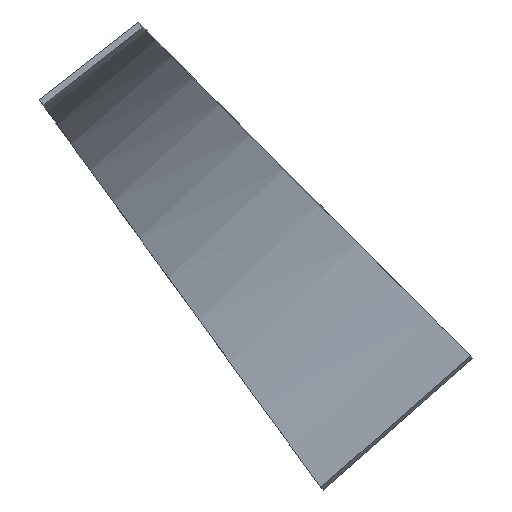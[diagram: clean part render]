
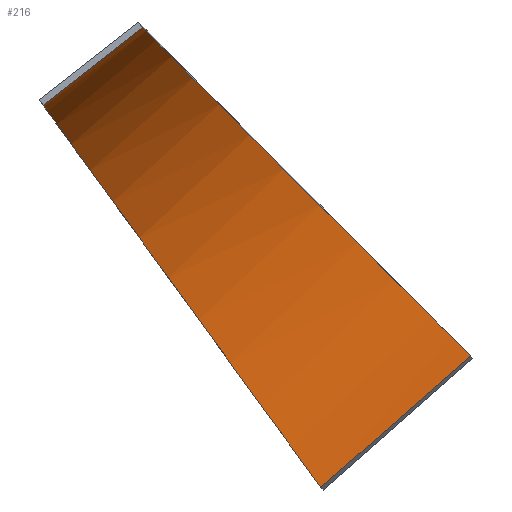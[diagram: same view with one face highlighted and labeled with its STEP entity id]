
A CAD part, top view. The second image highlights one B-rep face of the part: STEP entity #216.
In plain terms, the highlighted free-form (B-spline) face has degree [3, 1] with [10, 2] control points.
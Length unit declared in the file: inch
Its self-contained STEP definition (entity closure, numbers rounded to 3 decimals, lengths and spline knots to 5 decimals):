
#8 = B_SPLINE_CURVE_WITH_KNOTS ( 'NONE', 3,
 ( #212, #186, #153, #255 ),
 .UNSPECIFIED., .F., .F.,
 ( 4, 4 ),
 ( 0., 1. ),
 .UNSPECIFIED. ) ;
#11 = CARTESIAN_POINT ( 'NONE',  ( 50.5864, -69.62621, -0.125 ) ) ;
#12 = CARTESIAN_POINT ( 'NONE',  ( 92.98611, -92.98611, -31.83572 ) ) ;
#14 = ORIENTED_EDGE ( 'NONE', *, *, #200, .F. ) ;
#18 = CARTESIAN_POINT ( 'NONE',  ( 66.52466, -66.52466, -21.77089 ) ) ;
#29 = CARTESIAN_POINT ( 'NONE',  ( 51.52711, -70.92098, -11.88768 ) ) ;
#35 = B_SPLINE_SURFACE_WITH_KNOTS ( 'NONE', 3, 1, ( 
 ( #44, #49 ),
 ( #175, #299 ),
 ( #145, #99 ),
 ( #18, #72 ),
 ( #169, #314 ),
 ( #229, #232 ),
 ( #268, #226 ),
 ( #102, #320 ),
 ( #12, #105 ),
 ( #78, #119 ) ),
 .UNSPECIFIED., .F., .F., .F.,
 ( 4, 2, 2, 2, 4 ),
 ( 2, 2 ),
 ( 0., 0.25, 0.5, 0.75, 1. ),
 ( 0., 1. ),
 .UNSPECIFIED. ) ;
#36 = B_SPLINE_CURVE_WITH_KNOTS ( 'NONE', 3,
 ( #311, #74, #178, #140, #271, #97, #172, #274, #205, #317 ),
 .UNSPECIFIED., .F., .F.,
 ( 4, 2, 2, 2, 4 ),
 ( 0., 0.25, 0.5, 0.75, 1. ),
 .UNSPECIFIED. ) ;
#44 = CARTESIAN_POINT ( 'NONE',  ( 61.27539, -61.27539, -0.125 ) ) ;
#49 = CARTESIAN_POINT ( 'NONE',  ( 50.5864, -69.62621, -0.125 ) ) ;
#56 = CARTESIAN_POINT ( 'NONE',  ( 67.00846, -92.22923, -33.92651 ) ) ;
#71 = B_SPLINE_CURVE_WITH_KNOTS ( 'NONE', 3,
 ( #284, #276, #238, #56, #159, #157, #83, #29, #188, #112 ),
 .UNSPECIFIED., .F., .F.,
 ( 4, 2, 2, 2, 4 ),
 ( 0., 0.25, 0.5, 0.75, 1. ),
 .UNSPECIFIED. ) ;
#72 = CARTESIAN_POINT ( 'NONE',  ( 55.02727, -75.73854, -22.15802 ) ) ;
#74 = CARTESIAN_POINT ( 'NONE',  ( 61.29085, -61.29085, -5.95664 ) ) ;
#78 = CARTESIAN_POINT ( 'NONE',  ( 96.56498, -96.56498, -28.93883 ) ) ;
#81 = VERTEX_POINT ( 'NONE', #111 ) ;
#83 = CARTESIAN_POINT ( 'NONE',  ( 55.02727, -75.73854, -22.15802 ) ) ;
#93 = EDGE_LOOP ( 'NONE', ( #14, #204, #217, #231 ) ) ;
#97 = CARTESIAN_POINT ( 'NONE',  ( 76.63518, -76.63518, -31.79238 ) ) ;
#99 = CARTESIAN_POINT ( 'NONE',  ( 51.52711, -70.92098, -11.88768 ) ) ;
#102 = CARTESIAN_POINT ( 'NONE',  ( 88.93224, -88.93224, -33.35462 ) ) ;
#105 = CARTESIAN_POINT ( 'NONE',  ( 77.41651, -106.55469, -32.40204 ) ) ;
#106 = CARTESIAN_POINT ( 'NONE',  ( 91.19149, -101.28411, -29.11023 ) ) ;
#111 = CARTESIAN_POINT ( 'NONE',  ( 80.44451, -110.72237, -29.45304 ) ) ;
#112 = CARTESIAN_POINT ( 'NONE',  ( 50.5864, -69.62621, -0.125 ) ) ;
#119 = CARTESIAN_POINT ( 'NONE',  ( 80.44451, -110.72237, -29.45304 ) ) ;
#120 = CARTESIAN_POINT ( 'NONE',  ( 96.56498, -96.56498, -28.93883 ) ) ;
#122 = VERTEX_POINT ( 'NONE', #150 ) ;
#140 = CARTESIAN_POINT ( 'NONE',  ( 66.52466, -66.52466, -21.77089 ) ) ;
#145 = CARTESIAN_POINT ( 'NONE',  ( 62.38765, -62.38765, -11.68106 ) ) ;
#150 = CARTESIAN_POINT ( 'NONE',  ( 61.27539, -61.27539, -0.125 ) ) ;
#151 = EDGE_CURVE ( 'NONE', #302, #81, #187, .T. ) ;
#153 = CARTESIAN_POINT ( 'NONE',  ( 57.71239, -64.059, -0.125 ) ) ;
#157 = CARTESIAN_POINT ( 'NONE',  ( 57.53865, -79.19516, -26.42278 ) ) ;
#159 = CARTESIAN_POINT ( 'NONE',  ( 63.58185, -87.5129, -32.35869 ) ) ;
#169 = CARTESIAN_POINT ( 'NONE',  ( 69.49285, -69.49285, -25.96069 ) ) ;
#172 = CARTESIAN_POINT ( 'NONE',  ( 80.685, -80.685, -33.33276 ) ) ;
#175 = CARTESIAN_POINT ( 'NONE',  ( 61.29085, -61.29085, -5.95664 ) ) ;
#178 = CARTESIAN_POINT ( 'NONE',  ( 62.38765, -62.38765, -11.68106 ) ) ;
#186 = CARTESIAN_POINT ( 'NONE',  ( 54.1494, -66.8426, -0.125 ) ) ;
#187 = B_SPLINE_CURVE_WITH_KNOTS ( 'NONE', 3,
 ( #120, #106, #202, #194 ),
 .UNSPECIFIED., .F., .F.,
 ( 4, 4 ),
 ( 0., 1. ),
 .UNSPECIFIED. ) ;
#188 = CARTESIAN_POINT ( 'NONE',  ( 50.59925, -69.6439, -6.06087 ) ) ;
#194 = CARTESIAN_POINT ( 'NONE',  ( 80.44451, -110.72237, -29.45304 ) ) ;
#196 = VERTEX_POINT ( 'NONE', #11 ) ;
#200 = EDGE_CURVE ( 'NONE', #122, #302, #36, .T. ) ;
#202 = CARTESIAN_POINT ( 'NONE',  ( 85.818, -106.00324, -29.28164 ) ) ;
#204 = ORIENTED_EDGE ( 'NONE', *, *, #286, .F. ) ;
#205 = CARTESIAN_POINT ( 'NONE',  ( 92.98611, -92.98611, -31.83572 ) ) ;
#212 = CARTESIAN_POINT ( 'NONE',  ( 50.5864, -69.62621, -0.125 ) ) ;
#216 = ADVANCED_FACE ( 'NONE', ( #250 ), #35, .F. ) ;
#217 = ORIENTED_EDGE ( 'NONE', *, *, #223, .F. ) ;
#223 = EDGE_CURVE ( 'NONE', #81, #196, #71, .T. ) ;
#226 = CARTESIAN_POINT ( 'NONE',  ( 67.00846, -92.22923, -33.92651 ) ) ;
#229 = CARTESIAN_POINT ( 'NONE',  ( 76.63518, -76.63518, -31.79238 ) ) ;
#231 = ORIENTED_EDGE ( 'NONE', *, *, #151, .F. ) ;
#232 = CARTESIAN_POINT ( 'NONE',  ( 63.58185, -87.5129, -32.35869 ) ) ;
#238 = CARTESIAN_POINT ( 'NONE',  ( 73.98653, -101.83372, -33.94837 ) ) ;
#250 = FACE_OUTER_BOUND ( 'NONE', #93, .T. ) ;
#255 = CARTESIAN_POINT ( 'NONE',  ( 61.27539, -61.27539, -0.125 ) ) ;
#268 = CARTESIAN_POINT ( 'NONE',  ( 80.685, -80.685, -33.33276 ) ) ;
#271 = CARTESIAN_POINT ( 'NONE',  ( 69.49285, -69.49285, -25.96069 ) ) ;
#274 = CARTESIAN_POINT ( 'NONE',  ( 88.93224, -88.93224, -33.35462 ) ) ;
#276 = CARTESIAN_POINT ( 'NONE',  ( 77.41651, -106.55469, -32.40204 ) ) ;
#284 = CARTESIAN_POINT ( 'NONE',  ( 80.44451, -110.72237, -29.45304 ) ) ;
#286 = EDGE_CURVE ( 'NONE', #196, #122, #8, .T. ) ;
#299 = CARTESIAN_POINT ( 'NONE',  ( 50.59925, -69.6439, -6.06087 ) ) ;
#302 = VERTEX_POINT ( 'NONE', #304 ) ;
#304 = CARTESIAN_POINT ( 'NONE',  ( 96.56498, -96.56498, -28.93883 ) ) ;
#311 = CARTESIAN_POINT ( 'NONE',  ( 61.27539, -61.27539, -0.125 ) ) ;
#314 = CARTESIAN_POINT ( 'NONE',  ( 57.53865, -79.19516, -26.42278 ) ) ;
#317 = CARTESIAN_POINT ( 'NONE',  ( 96.56498, -96.56498, -28.93883 ) ) ;
#320 = CARTESIAN_POINT ( 'NONE',  ( 73.98653, -101.83372, -33.94837 ) ) ;
